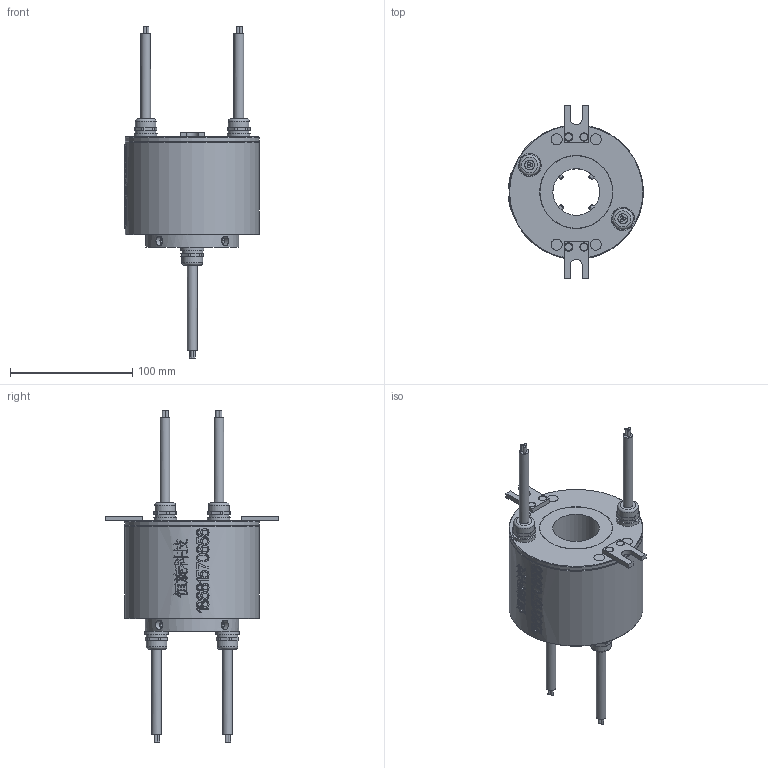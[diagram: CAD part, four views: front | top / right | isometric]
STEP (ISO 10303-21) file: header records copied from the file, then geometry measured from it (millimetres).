
FILE_DESCRIPTION(/* description */ (''),/* implementation_level */ '2;1');
FILE_NAME(/* name */ 'HDF38110-0610-3D模型.stp',/* time_stamp */ '2025-09-25T11:37:20+08:00',/* author */ (''),/* organization */ (''),/* preprocessor_version */ 'ST-DEVELOPER v16.7',/* originating_system */ 'SIEMENS PLM Software NX 12.0',/* authorisation */ '');
FILE_SCHEMA (('AUTOMOTIVE_DESIGN { 1 0 10303 214 3 1 1 1 }'));
Length unit declared in the file: millimetre
Products named in the file (1): Admi4334A7244fiy
Bounding box: 110.41 x 142 x 271.6 mm (x, y, z)
Volume: 733750.7 mm3; surface area: 75151.5 mm2
Topology: 1 solids, 5 shells, 873 faces, 2254 edges, 1482 vertices
Faces by surface type: plane 402, extrusion 313, cylinder 107, bspline 26, cone 17, torus 8
Full cylindrical faces by diameter (mm): 2.2 x12, 3 x4, 3.4 x4, 4 x4, 6 x4, 7 x4, 8 x8, 9 x4, 17 x8, 19 x4, 38.2 x1, 59.4 x1, 59.8 x1, 76.4 x1, 76.8 x1, 102.4 x1, 110 x2
Entity records: 31703 total; most frequent: CARTESIAN_POINT 13191, ORIENTED_EDGE 4262, DIRECTION 2637, EDGE_CURVE 2131, B_SPLINE_CURVE_WITH_KNOTS 1618, VERTEX_POINT 1448, EDGE_LOOP 1063, AXIS2_PLACEMENT_3D 963
